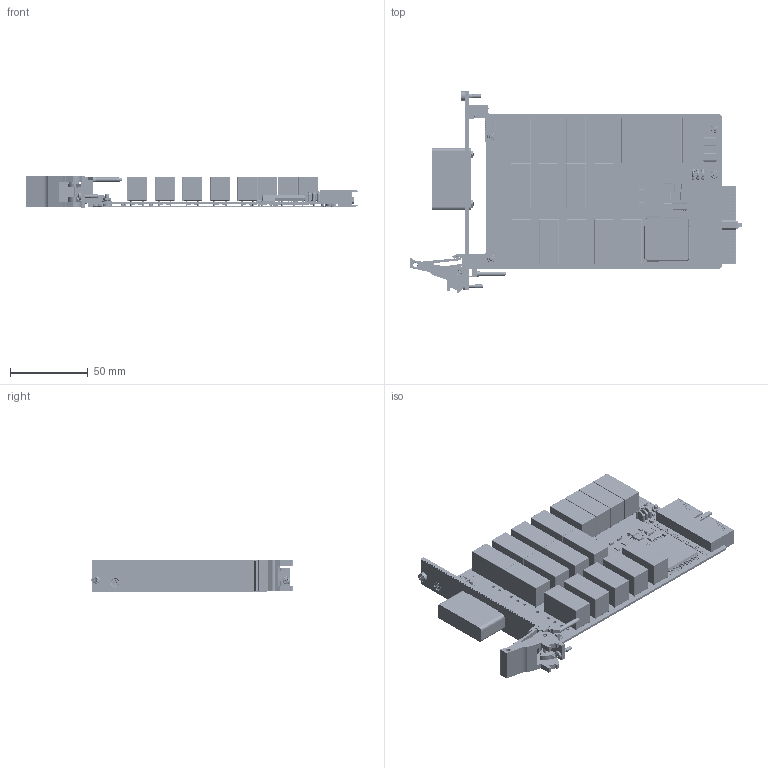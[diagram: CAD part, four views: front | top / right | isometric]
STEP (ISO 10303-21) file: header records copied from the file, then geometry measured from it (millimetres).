
FILE_DESCRIPTION (( 'STEP AP214' ), '1' );
FILE_NAME ('40-552-001 BASIC ASSY-S21.STEP', '2019-11-08T10:39:49', ( '' ), ( '' ), 'SwSTEP 2.0', 'SolidWorks 2019', '' );
FILE_SCHEMA (( 'AUTOMOTIVE_DESIGN' ));
Length unit declared in the file: millimetre
Products named in the file (264): C-RS-152 Res 10K 0603 1-16W 1% 300PPM; C-SC-056 Diode 1SS355TE-17; C-SC-055 Zener Diode; C-RS-529 RES 10R 0603 1-16W 1% 100PPM; C-CN-1284 POSITRONIC MALE CONTACT 20AWG; C-FX-495 Countersunk cross screw 2.5 X 8; C-IC-121 IC 93CS46-3 GR (SO8) SMT_No Text; C-FX-849 L Shaped Mounting Block; Z-FX-2001 FP Fixing - Bush + Screw; C-CP-034; C-FX-882 Spacer M3 x 1mm Nylon; C-FX-224 M3 Red Fibre Washer; C-FX-849 L Shaped Mounting Block_C-FX-314; C-RL-319 SPST 16A 5V; C-IC-261 24LC512 I2C EEPROM; A-PC-1064-# 4x4 1-Pole 16A Powder Matrix; C-RS-079 Res N-W 4x10K 1206 CRA3A4E10K; C-FX-028 Hex Nut M2.5 _C-FX-028 M2,5 Nut; L-FX-165 PXI Handle Label; C-RS-102 RES 4x10R 1206 1-16W 5% 200PPM; C-IC-194 EPROM M93C86WMN6P(S08)ST MICRO; A-PC-1064 4x4 1-Pole 16A Powder Matrix; C-BK-026 Bush Front Panel Mounting; C-CN-502 female Mount pin; C-CP-141 CAP 10UF 1206 35V X5R 10%; C-FX-165 Handle Finger; C-CN-502 Male Connector Mount; C-CN-502  Positronic Connector Body; C-SC-035 Transistor SMT; C-IC-430 MM74HCT273MTC; C-IC-121 IC 93CS46-3 GR (SO8) SMT; C-CN-1307 Samtec-FTSH-105-02-F-D-RA_LEAD STYLE2PINS5PLATINGFRIGHT ANGLERAROWD; C-CN-073-NUT M2-5 Screwlock nut_C-FX-028 M2,5 Nut; C-IC-429 TSSOP 20PIN SD; C-CP-104 CAP 22000uF 3 Terminal CAP; C-IC-087 IC 74HCT32D Logic IC Smt_No Text; C-BP-015 PXI 3U x 1 Slot Blank Panel; C-FX-165 Handle Pin; A-FP-864 FP +  Label Assembly; C-IC-124 16-Bit Constant Current Sink Driver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
Assembly tree (209 placements, depth 5):
  C-RS-152 Res 10K 0603 1-16W 1% 300PPM
  C-SC-056 Diode 1SS355TE-17
  C-SC-055 Zener Diode
  C-CN-1284 POSITRONIC MALE CONTACT 20AWG
  C-FX-495 Countersunk cross screw 2.5 X 8
Bounding box: 213.93 x 129.67 x 20 mm (x, y, z)
Volume: 169647.1 mm3; surface area: 141262 mm2
Topology: 208 solids, 231 shells, 18129 faces, 45773 edges, 28527 vertices
Faces by surface type: plane 9755, cylinder 6033, torus 818, cone 673, bspline 452, sphere 398
Entity records: 412461 total; most frequent: CARTESIAN_POINT 71189, DIRECTION 54707, ORIENTED_EDGE 54322, EDGE_CURVE 27165, LINE 18715, VECTOR 18715, AXIS2_PLACEMENT_3D 17996, VERTEX_POINT 17515
